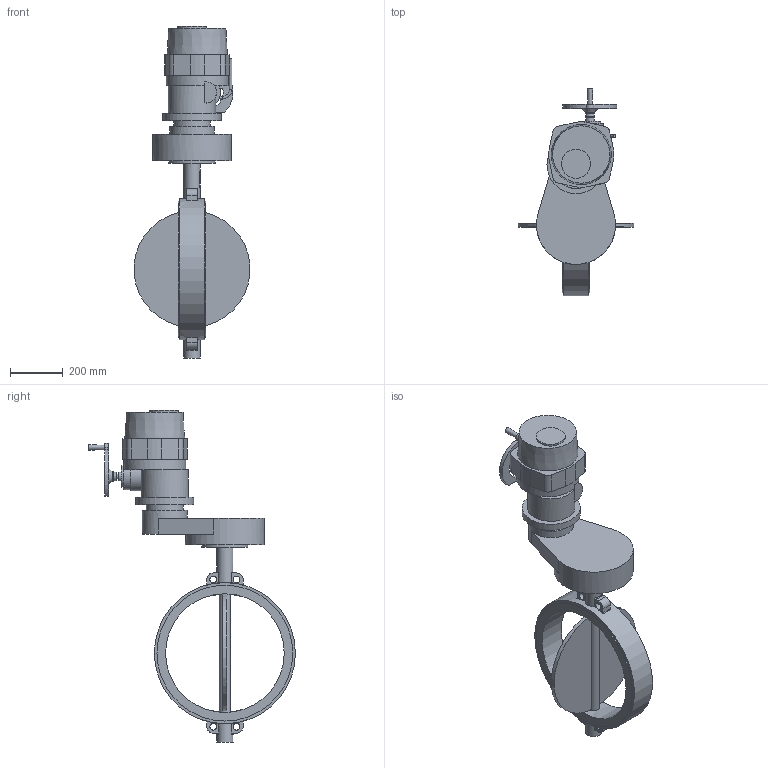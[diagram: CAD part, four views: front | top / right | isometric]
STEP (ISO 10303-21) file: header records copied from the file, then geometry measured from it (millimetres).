
FILE_DESCRIPTION(('STEP AP203'), '1');
FILE_NAME('青蜮铕 017W.YS_DN450_PN10_QT.A 150', '', ('UNSPECIFIED'), ('UNSPECIFIED'), 'ASCON STEP Converter 1.6', 'ASCON Math Kernel', '');
FILE_SCHEMA(('CONFIG_CONTROL_DESIGN'));
Length unit declared in the file: millimetre
Bounding box: 438.84 x 784.5 x 1259 mm (x, y, z)
Volume: 34989318.2 mm3; surface area: 1655381.8 mm2
Topology: 1 solids, 1 shells, 205 faces, 467 edges, 306 vertices
Faces by surface type: plane 112, cylinder 85, torus 5, cone 3
Full cylindrical faces by diameter (mm): 10 x2, 14 x12, 16 x1, 17.5 x4, 18 x4, 26 x4, 32 x2, 35 x1, 42 x1, 62 x2, 80 x1, 100 x1, 110 x1, 140 x1, 170 x1, 175 x1, 180 x1, 220 x1, 235 x1, 300 x1, 450 x1, 515 x2, 535 x1
Entity records: 8813 total; most frequent: CARTESIAN_POINT 2547, DIRECTION 1010, ORIENTED_EDGE 826, AXIS2_PLACEMENT_3D 419, EDGE_CURVE 413, EDGE_LOOP 315, VERTEX_POINT 304, FACE_BOUND 225
